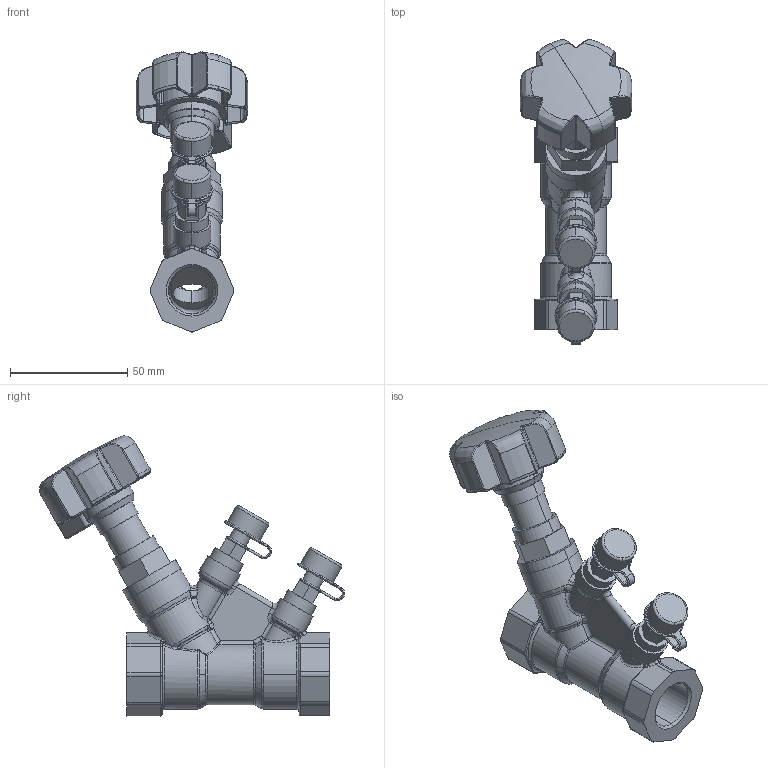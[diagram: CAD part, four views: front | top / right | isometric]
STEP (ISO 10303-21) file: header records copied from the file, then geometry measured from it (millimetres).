
FILE_DESCRIPTION (( 'STEP AP203' ), '1' );
FILE_NAME ('0.STEP', '2017-04-04T05:31:03', ( 'User' ), ( 'shendu' ), 'SwSTEP 2.0', 'SolidWorks 2015', '' );
FILE_SCHEMA (( 'CONFIG_CONTROL_DESIGN' ));
Length unit declared in the file: millimetre
Products named in the file (1): 0
Bounding box: 47.74 x 130.2 x 119.6 mm (x, y, z)
Volume: 96626.1 mm3; surface area: 40628.5 mm2
Topology: 7 solids, 7 shells, 773 faces, 1890 edges, 1106 vertices
Faces by surface type: bspline 396, cylinder 247, plane 106, cone 24
Entity records: 41418 total; most frequent: CARTESIAN_POINT 26289, ORIENTED_EDGE 3706, DIRECTION 2343, EDGE_CURVE 1853, VERTEX_POINT 1106, AXIS2_PLACEMENT_3D 948, EDGE_LOOP 801, FACE_OUTER_BOUND 773
